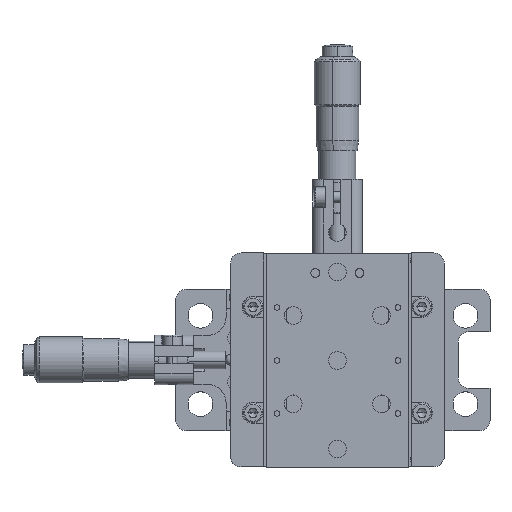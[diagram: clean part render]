
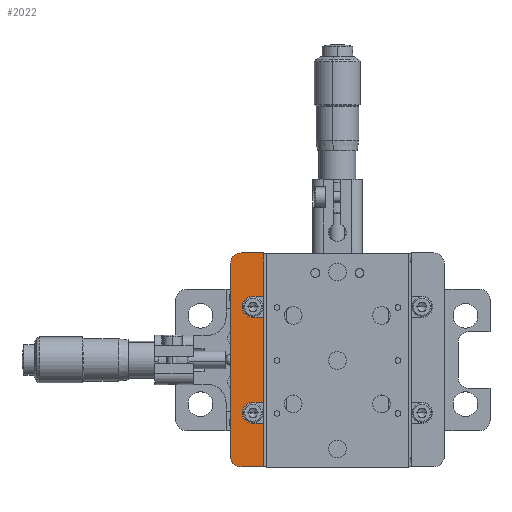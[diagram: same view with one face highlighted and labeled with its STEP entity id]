
A CAD part, top view. The second image highlights one B-rep face of the part: STEP entity #2022.
In plain terms, the highlighted planar face has unit normal (0, 0, 1).
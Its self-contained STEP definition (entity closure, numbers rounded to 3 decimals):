
#542 = CARTESIAN_POINT ( 'NONE',  ( -19.726, -30.25, 25.2 ) ) ;
#831 = DIRECTION ( 'NONE',  ( 0., 0., 1. ) ) ;
#873 = DIRECTION ( 'NONE',  ( 0., -1., 0. ) ) ;
#883 = EDGE_CURVE ( 'NONE', #17109, #20440, #23909, .T. ) ;
#1171 = LINE ( 'NONE', #4911, #5821 ) ;
#1209 = CARTESIAN_POINT ( 'NONE',  ( -22.626, -15., 25.2 ) ) ;
#1974 = EDGE_CURVE ( 'NONE', #11583, #24212, #9319, .T. ) ;
#1980 = VERTEX_POINT ( 'NONE', #17834 ) ;
#2014 = EDGE_CURVE ( 'NONE', #16563, #21182, #8781, .T. ) ;
#2022 = ADVANCED_FACE ( 'NONE', ( #8706 ), #18471, .T. ) ;
#3101 = CARTESIAN_POINT ( 'NONE',  ( -19.726, 12., 25.2 ) ) ;
#3479 = DIRECTION ( 'NONE',  ( 1., 0., 0. ) ) ;
#3953 = DIRECTION ( 'NONE',  ( -1., 0., 0. ) ) ;
#3962 = ORIENTED_EDGE ( 'NONE', *, *, #2014, .T. ) ;
#4222 = ORIENTED_EDGE ( 'NONE', *, *, #883, .T. ) ;
#4499 = EDGE_CURVE ( 'NONE', #1980, #11583, #1171, .T. ) ;
#4503 = ORIENTED_EDGE ( 'NONE', *, *, #6594, .F. ) ;
#4611 = EDGE_CURVE ( 'NONE', #17198, #23610, #8438, .T. ) ;
#4866 = DIRECTION ( 'NONE',  ( 1., 0., 0. ) ) ;
#4885 = ORIENTED_EDGE ( 'NONE', *, *, #4611, .T. ) ;
#4911 = CARTESIAN_POINT ( 'NONE',  ( 31.524, 30.25, 25.2 ) ) ;
#5551 = CARTESIAN_POINT ( 'NONE',  ( -19.726, -12., 25.2 ) ) ;
#5821 = VECTOR ( 'NONE', #3953, 1000. ) ;
#5860 = VECTOR ( 'NONE', #7412, 1000. ) ;
#6151 = CARTESIAN_POINT ( 'NONE',  ( -22.626, -12., 25.2 ) ) ;
#6241 = CARTESIAN_POINT ( 'NONE',  ( -28.976, -27.25, 25.2 ) ) ;
#6279 = EDGE_CURVE ( 'NONE', #9197, #21182, #21239, .T. ) ;
#6486 = ORIENTED_EDGE ( 'NONE', *, *, #8203, .T. ) ;
#6594 = EDGE_CURVE ( 'NONE', #24564, #9197, #11323, .T. ) ;
#6769 = ORIENTED_EDGE ( 'NONE', *, *, #7541, .F. ) ;
#6774 = ORIENTED_EDGE ( 'NONE', *, *, #1974, .T. ) ;
#6849 = EDGE_CURVE ( 'NONE', #17198, #24564, #17383, .T. ) ;
#7143 = EDGE_CURVE ( 'NONE', #8022, #23610, #14260, .T. ) ;
#7412 = DIRECTION ( 'NONE',  ( 0., -1., 0. ) ) ;
#7541 = EDGE_CURVE ( 'NONE', #20899, #8022, #7632, .T. ) ;
#7545 = AXIS2_PLACEMENT_3D ( 'NONE', #17839, #17875, #17897 ) ;
#7572 = CARTESIAN_POINT ( 'NONE',  ( -28.976, 27.25, 25.2 ) ) ;
#7632 = CIRCLE ( 'NONE', #10542, 3. ) ;
#7664 = EDGE_CURVE ( 'NONE', #17181, #20899, #14269, .T. ) ;
#7726 = CARTESIAN_POINT ( 'NONE',  ( -19.726, -30.25, 25.2 ) ) ;
#7883 = CARTESIAN_POINT ( 'NONE',  ( -19.726, 18., 25.2 ) ) ;
#8022 = VERTEX_POINT ( 'NONE', #23463 ) ;
#8069 = AXIS2_PLACEMENT_3D ( 'NONE', #18244, #18710, #18740 ) ;
#8203 = EDGE_CURVE ( 'NONE', #17181, #1980, #20415, .T. ) ;
#8438 = LINE ( 'NONE', #7726, #11113 ) ;
#8706 = FACE_OUTER_BOUND ( 'NONE', #11016, .T. ) ;
#8759 = VECTOR ( 'NONE', #18287, 1000. ) ;
#8781 = LINE ( 'NONE', #18085, #8759 ) ;
#8979 = CARTESIAN_POINT ( 'NONE',  ( 31.524, -30.25, 25.2 ) ) ;
#9197 = VERTEX_POINT ( 'NONE', #12797 ) ;
#9319 = CIRCLE ( 'NONE', #7545, 3. ) ;
#10542 = AXIS2_PLACEMENT_3D ( 'NONE', #17630, #17704, #17579 ) ;
#11016 = EDGE_LOOP ( 'NONE', ( #11423, #4222, #25466, #3962, #25886, #4503, #27194, #4885, #25161, #6769, #23627, #6486, #23597, #6774 ) ) ;
#11113 = VECTOR ( 'NONE', #17368, 1000. ) ;
#11323 = CIRCLE ( 'NONE', #15960, 3. ) ;
#11423 = ORIENTED_EDGE ( 'NONE', *, *, #21701, .T. ) ;
#11583 = VERTEX_POINT ( 'NONE', #14139 ) ;
#12797 = CARTESIAN_POINT ( 'NONE',  ( -22.626, -18., 25.2 ) ) ;
#14139 = CARTESIAN_POINT ( 'NONE',  ( -25.976, 30.25, 25.2 ) ) ;
#14260 = LINE ( 'NONE', #3101, #14883 ) ;
#14269 = LINE ( 'NONE', #15005, #14300 ) ;
#14300 = VECTOR ( 'NONE', #19133, 1000. ) ;
#14883 = VECTOR ( 'NONE', #3479, 1000. ) ;
#14973 = CARTESIAN_POINT ( 'NONE',  ( -19.726, -18., 25.2 ) ) ;
#15005 = CARTESIAN_POINT ( 'NONE',  ( -19.726, 18., 25.2 ) ) ;
#15007 = CARTESIAN_POINT ( 'NONE',  ( -25.976, -30.25, 25.2 ) ) ;
#15960 = AXIS2_PLACEMENT_3D ( 'NONE', #1209, #831, #873 ) ;
#16563 = VERTEX_POINT ( 'NONE', #21051 ) ;
#16626 = AXIS2_PLACEMENT_3D ( 'NONE', #24572, #24602, #24651 ) ;
#16704 = CARTESIAN_POINT ( 'NONE',  ( -19.726, 12., 25.2 ) ) ;
#17109 = VERTEX_POINT ( 'NONE', #6241 ) ;
#17181 = VERTEX_POINT ( 'NONE', #7883 ) ;
#17198 = VERTEX_POINT ( 'NONE', #5551 ) ;
#17368 = DIRECTION ( 'NONE',  ( 0., 1., 0. ) ) ;
#17383 = LINE ( 'NONE', #19238, #23522 ) ;
#17475 = DIRECTION ( 'NONE',  ( 1., 0., 0. ) ) ;
#17579 = DIRECTION ( 'NONE',  ( 0., -1., 0. ) ) ;
#17630 = CARTESIAN_POINT ( 'NONE',  ( -22.626, 15., 25.2 ) ) ;
#17704 = DIRECTION ( 'NONE',  ( 0., 0., 1. ) ) ;
#17834 = CARTESIAN_POINT ( 'NONE',  ( -19.726, 30.25, 25.2 ) ) ;
#17839 = CARTESIAN_POINT ( 'NONE',  ( -25.976, 27.25, 25.2 ) ) ;
#17875 = DIRECTION ( 'NONE',  ( 0., 0., 1. ) ) ;
#17897 = DIRECTION ( 'NONE',  ( 0., -1., 0. ) ) ;
#18085 = CARTESIAN_POINT ( 'NONE',  ( -19.726, -30.25, 25.2 ) ) ;
#18244 = CARTESIAN_POINT ( 'NONE',  ( -28.976, 30.25, 25.2 ) ) ;
#18287 = DIRECTION ( 'NONE',  ( 0., 1., 0. ) ) ;
#18471 = PLANE ( 'NONE',  #8069 ) ;
#18710 = DIRECTION ( 'NONE',  ( 0., 0., 1. ) ) ;
#18740 = DIRECTION ( 'NONE',  ( 0., -1., 0. ) ) ;
#19117 = LINE ( 'NONE', #8979, #23935 ) ;
#19133 = DIRECTION ( 'NONE',  ( -1., 0., 0. ) ) ;
#19238 = CARTESIAN_POINT ( 'NONE',  ( -19.726, -12., 25.2 ) ) ;
#20040 = CARTESIAN_POINT ( 'NONE',  ( -19.726, -18., 25.2 ) ) ;
#20415 = LINE ( 'NONE', #542, #20993 ) ;
#20440 = VERTEX_POINT ( 'NONE', #15007 ) ;
#20816 = CARTESIAN_POINT ( 'NONE',  ( -28.976, 30.25, 25.2 ) ) ;
#20899 = VERTEX_POINT ( 'NONE', #26023 ) ;
#20993 = VECTOR ( 'NONE', #27254, 1000. ) ;
#21051 = CARTESIAN_POINT ( 'NONE',  ( -19.726, -30.25, 25.2 ) ) ;
#21182 = VERTEX_POINT ( 'NONE', #14973 ) ;
#21239 = LINE ( 'NONE', #20040, #21579 ) ;
#21579 = VECTOR ( 'NONE', #17475, 1000. ) ;
#21701 = EDGE_CURVE ( 'NONE', #24212, #17109, #23711, .T. ) ;
#22670 = DIRECTION ( 'NONE',  ( -1., 0., 0. ) ) ;
#23463 = CARTESIAN_POINT ( 'NONE',  ( -22.626, 12., 25.2 ) ) ;
#23522 = VECTOR ( 'NONE', #22670, 1000. ) ;
#23597 = ORIENTED_EDGE ( 'NONE', *, *, #4499, .T. ) ;
#23610 = VERTEX_POINT ( 'NONE', #16704 ) ;
#23627 = ORIENTED_EDGE ( 'NONE', *, *, #7664, .F. ) ;
#23711 = LINE ( 'NONE', #20816, #5860 ) ;
#23909 = CIRCLE ( 'NONE', #16626, 3. ) ;
#23935 = VECTOR ( 'NONE', #4866, 1000. ) ;
#24212 = VERTEX_POINT ( 'NONE', #7572 ) ;
#24564 = VERTEX_POINT ( 'NONE', #6151 ) ;
#24572 = CARTESIAN_POINT ( 'NONE',  ( -25.976, -27.25, 25.2 ) ) ;
#24602 = DIRECTION ( 'NONE',  ( 0., 0., 1. ) ) ;
#24651 = DIRECTION ( 'NONE',  ( 0., -1., 0. ) ) ;
#25161 = ORIENTED_EDGE ( 'NONE', *, *, #7143, .F. ) ;
#25466 = ORIENTED_EDGE ( 'NONE', *, *, #26648, .T. ) ;
#25886 = ORIENTED_EDGE ( 'NONE', *, *, #6279, .F. ) ;
#26023 = CARTESIAN_POINT ( 'NONE',  ( -22.626, 18., 25.2 ) ) ;
#26648 = EDGE_CURVE ( 'NONE', #20440, #16563, #19117, .T. ) ;
#27194 = ORIENTED_EDGE ( 'NONE', *, *, #6849, .F. ) ;
#27254 = DIRECTION ( 'NONE',  ( 0., 1., 0. ) ) ;
